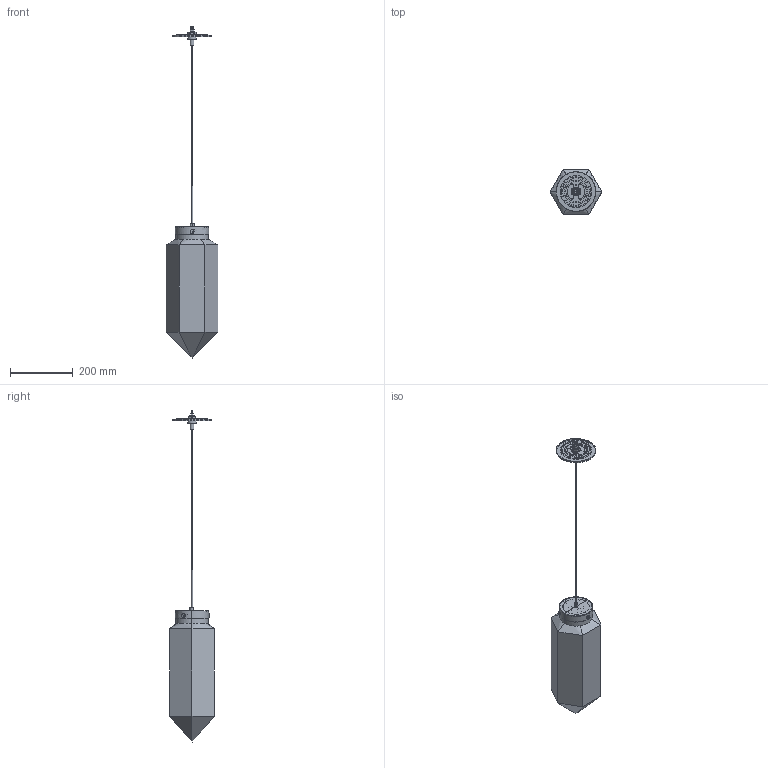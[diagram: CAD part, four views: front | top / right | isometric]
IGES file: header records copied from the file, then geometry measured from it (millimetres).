
Global section: file name: Niche - Facet Grand Pendant; native system: unknown; preprocessor: unknown; author: unknown; organization: unknown; date: 20220902.104942; units: inch
Bounding box: 165.1 x 142.98 x 1059.88 mm (x, y, z)
Volume: 752448.8 mm3; surface area: 497744.9 mm2
Topology: 29 solids, 29 shells, 741 faces, 1830 edges, 1190 vertices
Faces by surface type: bspline 741
